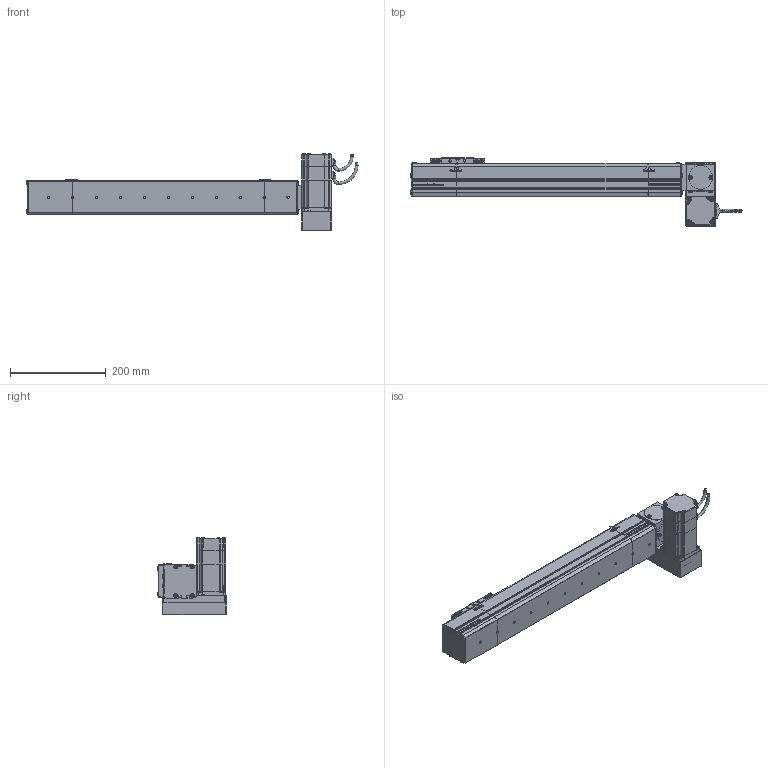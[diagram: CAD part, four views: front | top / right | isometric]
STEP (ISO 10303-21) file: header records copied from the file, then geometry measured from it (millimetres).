
FILE_DESCRIPTION (( 'STEP AP214' ), '1' );
FILE_NAME ('S07 CBN RU S400.STEP', '2010-06-29T09:25:45', ( 'Conseil Régional Haute-Normandie' ), ( 'Conseil Régional Haute-Normandie' ), 'SwSTEP 2.0', 'SolidWorks 2010', '' );
FILE_SCHEMA (( 'AUTOMOTIVE_DESIGN' ));
Length unit declared in the file: millimetre
Products named in the file (31): vis M5 L8_Default; support chariot_Default; chariot_Default; Chariot S07_Default; vis M5 L15_Default; plaque de serrage Tail_Default; Plaque de bout Tail_Default; Couvercle Tail_Default; Corp Tail_Default; Tail S07 Tail_Default; Corp RU_Default; Head RU_Default; S07 CBN RU S400; plaque de serrage RU_Default; Plaque de bout RU_Default; Couvercle RU_Default; Cache Support Moteur RU_Default; Support Moteur RU_Default; Rondelle de Serrage RU_Default; P2 90A_Default; P1_Default; 60BLDC90A-640_Default; Axe 60BLDC_Default; P4_Default; P3 90A_Default; VisM3_Default; Conecteur2 60BLDC_Default; Conecteur 60BLDC_Default; Couvercle S07 S400_Default; Corp S07 S400_Default
Assembly tree (71 placements, depth 4):
  S07 CBN RU S400
    Corp S07 S400_Default
      Couvercle S07 S400_Default
      Corp S07 S400_Default
    Tail S07 Tail_Default
      vis M5 L15_Default  x6
      Couvercle Tail_Default
      Corp Tail_Default
      plaque de serrage Tail_Default
      Plaque de bout Tail_Default
    Head RU_Default
      vis M5 L15_Default  x16
      Couvercle RU_Default
      Rondelle de Serrage RU_Default  x3
      Cache Support Moteur RU_Default
      Plaque de bout RU_Default
      plaque de serrage RU_Default
      60BLDC90A-640_Default
        P1_Default
        VisM3_Default  x12
        Conecteur 60BLDC_Default
        P4_Default
        Axe 60BLDC_Default
        P2 90A_Default
        Conecteur2 60BLDC_Default
        P3 90A_Default
      Support Moteur RU_Default
      Corp RU_Default
    Chariot S07_Default
      vis M5 L8_Default  x8
      support chariot_Default
      chariot_Default
Bounding box: 693.2 x 142 x 162 mm (x, y, z)
Volume: 3336233.7 mm3; surface area: 507748.3 mm2
Topology: 108 solids, 108 shells, 3874 faces, 9554 edges, 6148 vertices
Faces by surface type: plane 2244, bspline 756, cylinder 663, torus 112, cone 95, sphere 4
Entity records: 152873 total; most frequent: CARTESIAN_POINT 79513, ORIENTED_EDGE 14628, DIRECTION 10867, EDGE_CURVE 7314, VERTEX_POINT 4833, VECTOR 4761, LINE 4761, EDGE_LOOP 3125
